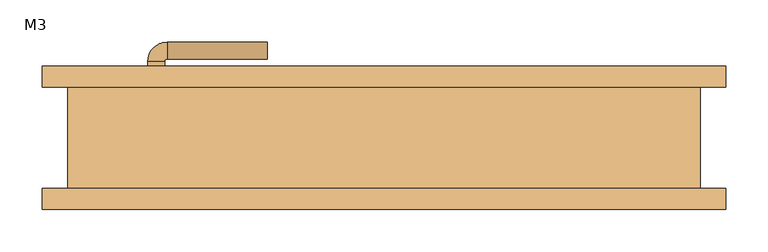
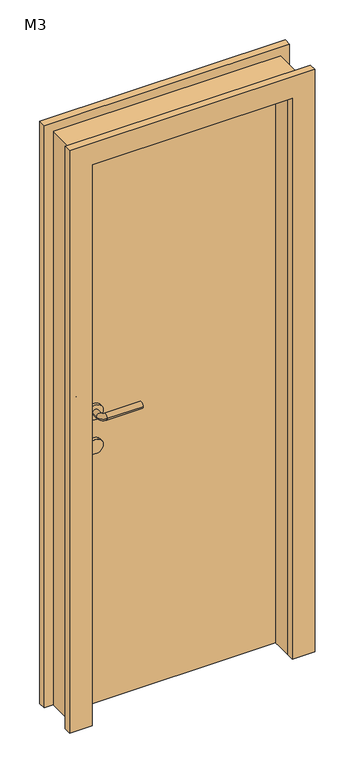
"""IFC4 building model written with IfcOpenShell, lengths in millimetres: door geometry, 单嵌板木门 1 : M3."""

from ifc_helpers import new_model, si_unit, point, frame, frame_2d, origin, origin_with_axes, place, context, project, spatial, polyline, circle_curve, ellipse_curve, trimmed, segment, composite_curve, outline, extrude, source, transform, mapped, element, save
from ifc_brep_helpers import plane_surface, cylinder_surface, revolved_surface, advanced_brep


def m3_20c00246(model_context):
    return source(origin(), model_context, "Body", "SolidModel", [
        extrude(outline(composite_curve([segment(trimmed(circle_curve(frame_2d((900.0, -270.0)), 25.0), [point((900.0, -245.0))], [point((900.0, -295.0))], False, "CARTESIAN"), True, "CONTINUOUS"), segment(trimmed(circle_curve(frame_2d((900.0, -270.0)), 25.0), [point((900.0, -295.0))], [point((900.0, -245.0))], False, "CARTESIAN"), True, "CONTINUOUS")], self_intersect=False)), frame((0.0, 0.0, 0.0), z_axis=(0.0, 1.0, 0.0), x_axis=(0.0, 0.0, 1.0)), (0.0, 0.0, 1.0), 10.0),
        extrude(outline(composite_curve([segment(trimmed(circle_curve(frame_2d((900.0, -270.0)), 25.0), [point((900.0, -245.0))], [point((900.0, -295.0))], False, "CARTESIAN"), True, "CONTINUOUS"), segment(trimmed(circle_curve(frame_2d((900.0, -270.0)), 25.0), [point((900.0, -295.0))], [point((900.0, -245.0))], False, "CARTESIAN"), True, "CONTINUOUS")], self_intersect=False)), frame((0.0, 60.0, 0.0), z_axis=(0.0, 1.0, 0.0), x_axis=(0.0, 0.0, 1.0)), (0.0, 0.0, 1.0), 10.0),
        advanced_brep(
        [(-280.0, 0.0, 1020.0), (-260.0, 0.0, 1020.0), (-260.0, -20.613355, 1020.0), (-280.0, -20.613355, 1020.0), (-138.419036, -43.580964, 1020.0), (-138.419036, -23.580964, 1020.0), (-257.0323911, -23.580964, 1020.0), (-257.0323911, -43.580964, 1020.0)],
        [
            (0, 1, circle_curve(frame((-270.0, 0.0, 1020.0), z_axis=(0.0, 1.0, 0.0), x_axis=(1.0, 0.0, 0.0)), 10.0)),
            (1, 0, circle_curve(frame((-270.0, 0.0, 1020.0), z_axis=(0.0, 1.0, 0.0), x_axis=(1.0, 0.0, 0.0)), 10.0)),
            (1, 2),
            (2, 3, circle_curve(frame((-270.0, -20.613355, 1020.0), z_axis=(0.0, 1.0, 0.0), x_axis=(1.0, 0.0, 0.0)), 10.0)),
            (3, 0),
            (3, 2, circle_curve(frame((-270.0, -20.613355, 1020.0), z_axis=(0.0, 1.0, 0.0), x_axis=(1.0, 0.0, 0.0)), 10.0)),
            (4, 5, circle_curve(frame((-138.419036, -33.580964, 1020.0), z_axis=(1.0, 0.0, 0.0), x_axis=(0.0, 1.0, 0.0)), 10.0)),
            (5, 4, circle_curve(frame((-138.419036, -33.580964, 1020.0), z_axis=(1.0, 0.0, 0.0), x_axis=(0.0, 1.0, 0.0)), 10.0)),
            (6, 2, circle_curve(frame((-257.0323911, -20.613355, 1020.0), z_axis=(0.0, 0.0, -1.0), x_axis=(-1.0, 0.0, 0.0)), 2.9676089)),
            (3, 7, circle_curve(frame((-257.0323911, -20.613355, 1020.0), z_axis=(0.0, 0.0, 1.0), x_axis=(-1.0, 0.0, 0.0)), 22.9676089)),
            (7, 6, circle_curve(frame((-257.0323911, -33.580964, 1020.0), z_axis=(-1.0, 0.0, 0.0), x_axis=(0.0, 1.0, 0.0)), 10.0)),
            (6, 7, circle_curve(frame((-257.0323911, -33.580964, 1020.0), z_axis=(-1.0, 0.0, 0.0), x_axis=(0.0, 1.0, 0.0)), 10.0)),
            (7, 4),
            (5, 6),
        ],
        [
            plane_surface(frame((-270.0, 0.0, 900.0), z_axis=(0.0, 1.0, 0.0), x_axis=(0.0, 0.0, 1.0))),
            cylinder_surface(frame((-270.0, 0.0, 1020.0), z_axis=(0.0, 1.0, 0.0), x_axis=(1.0, 0.0, 0.0)), 10.0),
            plane_surface(frame((-138.419036, -33.580964, 900.0), z_axis=(1.0, 0.0, 0.0), x_axis=(0.0, 0.0, 1.0))),
            revolved_surface(trimmed(ellipse_curve(frame((-270.0, -20.613355, 1020.0), z_axis=(0.0, 1.0, 0.0), x_axis=(1.0, 0.0, 0.0)), 10.0, 10.0), [point((-280.0, -20.613355, 1020.0))], [point((-260.0, -20.613355, 1020.0))], True, "CARTESIAN"), (-257.0323911, -20.613355, 900.0), (0.0, 0.0, 1.0)),
            revolved_surface(trimmed(ellipse_curve(frame((-270.0, -20.613355, 1020.0), z_axis=(0.0, 1.0, 0.0), x_axis=(1.0, 0.0, 0.0)), 10.0, 10.0), [point((-260.0, -20.613355, 1020.0))], [point((-280.0, -20.613355, 1020.0))], True, "CARTESIAN"), (-257.0323911, -20.613355, 900.0), (0.0, 0.0, 1.0)),
            cylinder_surface(frame((-257.0323911, -33.580964, 1020.0), z_axis=(-1.0, 0.0, 0.0), x_axis=(0.0, 1.0, 0.0)), 10.0),
        ],
        [
            (0, [[1, 2]]),
            (1, [[-2, 3, 4, 5]]),
            (1, [[-1, -5, 6, -3]]),
            (2, [[7, 8]]),
            (3, [[9, -6, 10, 11]]),
            (4, [[-10, -4, -9, 12]]),
            (5, [[-11, 13, -8, 14]]),
            (5, [[-12, -14, -7, -13]]),
        ],
    ),
        extrude(outline(composite_curve([segment(trimmed(circle_curve(frame_2d((1020.0, -270.0)), 25.0), [point((1020.0, -245.0))], [point((1020.0, -295.0))], False, "CARTESIAN"), True, "CONTINUOUS"), segment(trimmed(circle_curve(frame_2d((1020.0, -270.0)), 25.0), [point((1020.0, -295.0))], [point((1020.0, -245.0))], False, "CARTESIAN"), True, "CONTINUOUS")], self_intersect=False)), frame((0.0, 0.0, 0.0), z_axis=(0.0, 1.0, 0.0), x_axis=(0.0, 0.0, 1.0)), (0.0, 0.0, 1.0), 10.0),
        advanced_brep(
        [(-260.0, 70.0, 1020.0), (-280.0, 70.0, 1020.0), (-260.0, 90.6133551, 1020.0), (-280.0, 90.6133551, 1020.0), (-138.419036, 93.580964, 1020.0), (-138.419036, 113.580964, 1020.0), (-257.0323911, 113.580964, 1020.0), (-257.0323911, 93.580964, 1020.0)],
        [
            (0, 1, circle_curve(frame((-270.0, 70.0, 1020.0), z_axis=(0.0, -1.0, 0.0), x_axis=(-1.0, 0.0, 0.0)), 10.0)),
            (1, 0, circle_curve(frame((-270.0, 70.0, 1020.0), z_axis=(0.0, -1.0, 0.0), x_axis=(-1.0, 0.0, 0.0)), 10.0)),
            (0, 2),
            (2, 3, circle_curve(frame((-270.0, 90.6133551, 1020.0), z_axis=(0.0, -1.0, 0.0), x_axis=(-1.0, 0.0, 0.0)), 10.0)),
            (3, 1),
            (3, 2, circle_curve(frame((-270.0, 90.6133551, 1020.0), z_axis=(0.0, -1.0, 0.0), x_axis=(-1.0, 0.0, 0.0)), 10.0)),
            (4, 5, circle_curve(frame((-138.419036, 103.580964, 1020.0), z_axis=(1.0, 0.0, 0.0), x_axis=(0.0, 1.0, 0.0)), 10.0)),
            (5, 4, circle_curve(frame((-138.419036, 103.580964, 1020.0), z_axis=(1.0, 0.0, 0.0), x_axis=(0.0, 1.0, 0.0)), 10.0)),
            (6, 3, circle_curve(frame((-257.0323911, 90.6133551, 1020.0), z_axis=(0.0, 0.0, 1.0), x_axis=(-1.0, 0.0, 0.0)), 22.9676089)),
            (2, 7, circle_curve(frame((-257.0323911, 90.6133551, 1020.0), z_axis=(0.0, 0.0, -1.0), x_axis=(-1.0, 0.0, 0.0)), 2.9676089)),
            (7, 6, circle_curve(frame((-257.0323911, 103.580964, 1020.0), z_axis=(-1.0, 0.0, 0.0), x_axis=(0.0, 1.0, 0.0)), 10.0)),
            (6, 7, circle_curve(frame((-257.0323911, 103.580964, 1020.0), z_axis=(-1.0, 0.0, 0.0), x_axis=(0.0, 1.0, 0.0)), 10.0)),
            (7, 4),
            (5, 6),
        ],
        [
            plane_surface(frame((-270.0, 70.0, 900.0), z_axis=(0.0, -1.0, 0.0), x_axis=(0.0, 0.0, 1.0))),
            cylinder_surface(frame((-270.0, 70.0, 1020.0), z_axis=(0.0, -1.0, 0.0), x_axis=(-1.0, 0.0, 0.0)), 10.0),
            plane_surface(frame((-138.419036, 103.580964, 900.0), z_axis=(1.0, 0.0, 0.0), x_axis=(0.0, 0.0, 1.0))),
            revolved_surface(trimmed(ellipse_curve(frame((-270.0, 90.6133551, 1020.0), z_axis=(0.0, -1.0, 0.0), x_axis=(-1.0, 0.0, 0.0)), 10.0, 10.0), [point((-260.0, 90.6133551, 1020.0))], [point((-280.0, 90.6133551, 1020.0))], True, "CARTESIAN"), (-257.0323911, 90.6133551, 900.0), (0.0, 0.0, -1.0)),
            revolved_surface(trimmed(ellipse_curve(frame((-270.0, 90.6133551, 1020.0), z_axis=(0.0, -1.0, 0.0), x_axis=(-1.0, 0.0, 0.0)), 10.0, 10.0), [point((-280.0, 90.6133551, 1020.0))], [point((-260.0, 90.6133551, 1020.0))], True, "CARTESIAN"), (-257.0323911, 90.6133551, 900.0), (0.0, 0.0, -1.0)),
            cylinder_surface(frame((-257.0323911, 103.580964, 1020.0), z_axis=(-1.0, 0.0, 0.0), x_axis=(0.0, 1.0, 0.0)), 10.0),
        ],
        [
            (0, [[1, 2]]),
            (1, [[-1, 3, 4, 5]]),
            (1, [[-2, -5, 6, -3]]),
            (2, [[7, 8]]),
            (3, [[9, -4, 10, 11]]),
            (4, [[-10, -6, -9, 12]]),
            (5, [[-11, 13, -8, 14]]),
            (5, [[-12, -14, -7, -13]]),
        ],
    ),
        extrude(outline(composite_curve([segment(trimmed(circle_curve(frame_2d((1020.0, -270.0)), 25.0), [point((1020.0, -245.0))], [point((1020.0, -295.0))], False, "CARTESIAN"), True, "CONTINUOUS"), segment(trimmed(circle_curve(frame_2d((1020.0, -270.0)), 25.0), [point((1020.0, -295.0))], [point((1020.0, -245.0))], False, "CARTESIAN"), True, "CONTINUOUS")], self_intersect=False)), frame((0.0, 60.0, 0.0), z_axis=(0.0, 1.0, 0.0), x_axis=(0.0, 0.0, 1.0)), (0.0, 0.0, 1.0), 10.0),
        extrude(outline(polyline([(0.0, 405.0), (2030.0, 405.0), (2030.0, -405.0), (0.0, -405.0), (0.0, -330.0), (1955.0, -330.0), (1955.0, 330.0), (0.0, 330.0), (0.0, 405.0)])), frame((0.0, 60.0, 0.0), z_axis=(0.0, 1.0, 0.0), x_axis=(0.0, 0.0, 1.0)), (0.0, 0.0, 1.0), 25.0),
        extrude(outline(polyline([(2030.0, 405.0), (2030.0, -405.0), (0.0, -405.0), (0.0, -330.0), (1955.0, -330.0), (1955.0, 330.0), (0.0, 330.0), (0.0, 405.0), (2030.0, 405.0)])), frame((0.0, -85.0, 0.0), z_axis=(0.0, 1.0, 0.0), x_axis=(0.0, 0.0, 1.0)), (0.0, 0.0, 1.0), 25.0),
        extrude(outline(polyline([(330.0, 10.0), (-330.0, 10.0), (-330.0, 60.0), (330.0, 60.0), (330.0, 10.0)])), origin_with_axes(), (0.0, 0.0, 1.0), 1955.0),
        extrude(outline(polyline([(2000.0, -375.0), (0.0, -375.0), (0.0, -330.0), (1955.0, -330.0), (1955.0, 330.0), (0.0, 330.0), (0.0, 375.0), (2000.0, 375.0), (2000.0, -375.0)])), frame((0.0, -60.0, 0.0), z_axis=(0.0, 1.0, 0.0), x_axis=(0.0, 0.0, 1.0)), (0.0, 0.0, 1.0), 120.0),
    ])


if __name__ == "__main__":
    model = new_model("IFC4")
    model_context = context("Model", 3, world=origin())
    ifc_project = project(units=[si_unit("LENGTHUNIT", "METRE", prefix="MILLI")], contexts=[model_context])
    site = spatial("IfcSite", under=ifc_project)
    building = spatial("IfcBuilding", under=site)
    placement = place(None, origin())
    m3_shape = m3_20c00246(model_context)
    element("IfcDoor", 1, ObjectType="单嵌板木门 1 : M3", at=placement, inside=building, context=model_context, shape_type="MappedRepresentation", body=[
        mapped(m3_shape, transform((0.0, 0.0, 0.0), x_axis=(1.0, 0.0, 0.0), y_axis=(0.0, 1.0, 0.0), z_axis=(0.0, 0.0, 1.0))),
    ])
    save(model, "model.ifc")
